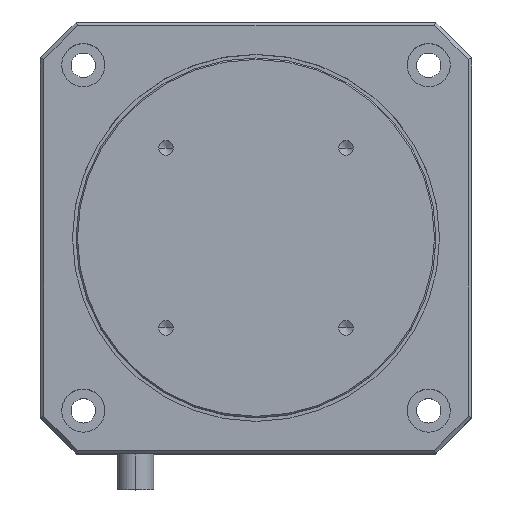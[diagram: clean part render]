
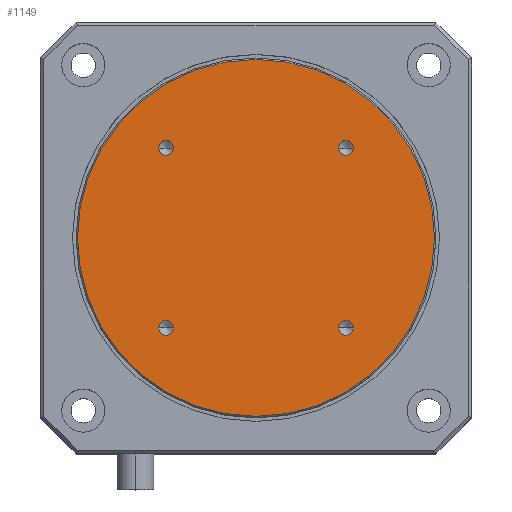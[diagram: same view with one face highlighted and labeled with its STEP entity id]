
A CAD part, top view. The second image highlights one B-rep face of the part: STEP entity #1149.
In plain terms, the highlighted planar face has unit normal (0, 0, 1).
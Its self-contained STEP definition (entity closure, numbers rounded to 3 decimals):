
#48 = CARTESIAN_POINT ( 'NONE',  ( -27.244, 0.002, 77. ) ) ;
#51 = ORIENTED_EDGE ( 'NONE', *, *, #1732, .F. ) ;
#68 = AXIS2_PLACEMENT_3D ( 'NONE', #2063, #99, #267 ) ;
#71 = DIRECTION ( 'NONE',  ( 1., 0., 0. ) ) ;
#72 = CARTESIAN_POINT ( 'NONE',  ( -1.219, 0.002, 77. ) ) ;
#86 = EDGE_LOOP ( 'NONE', ( #1325, #1027 ) ) ;
#99 = DIRECTION ( 'NONE',  ( 0., 0., 1. ) ) ;
#127 = VERTEX_POINT ( 'NONE', #918 ) ;
#146 = DIRECTION ( 'NONE',  ( 1., 0., 0. ) ) ;
#155 = CIRCLE ( 'NONE', #1644, 24.8 ) ;
#181 = DIRECTION ( 'NONE',  ( 0., 0., 1. ) ) ;
#184 = ORIENTED_EDGE ( 'NONE', *, *, #1378, .T. ) ;
#215 = CARTESIAN_POINT ( 'NONE',  ( -26.219, 0.002, 77. ) ) ;
#267 = DIRECTION ( 'NONE',  ( 1., 0., 0. ) ) ;
#304 = CIRCLE ( 'NONE', #1973, 1.025 ) ;
#375 = DIRECTION ( 'NONE',  ( 1., 0., 0. ) ) ;
#393 = DIRECTION ( 'NONE',  ( 1., 0., 0. ) ) ;
#406 = FACE_BOUND ( 'NONE', #1596, .T. ) ;
#443 = EDGE_CURVE ( 'NONE', #1855, #127, #1042, .T. ) ;
#487 = AXIS2_PLACEMENT_3D ( 'NONE', #2060, #1893, #393 ) ;
#532 = CIRCLE ( 'NONE', #2005, 1.025 ) ;
#551 = DIRECTION ( 'NONE',  ( 0., 0., 1. ) ) ;
#568 = CIRCLE ( 'NONE', #1867, 1.025 ) ;
#589 = EDGE_CURVE ( 'NONE', #127, #1855, #1551, .T. ) ;
#622 = CARTESIAN_POINT ( 'NONE',  ( -28.269, -24.998, 77. ) ) ;
#623 = EDGE_LOOP ( 'NONE', ( #184, #1916 ) ) ;
#632 = ORIENTED_EDGE ( 'NONE', *, *, #1549, .F. ) ;
#667 = VERTEX_POINT ( 'NONE', #1586 ) ;
#675 = EDGE_CURVE ( 'NONE', #1880, #667, #1598, .T. ) ;
#695 = CARTESIAN_POINT ( 'NONE',  ( -2.244, -24.998, 77. ) ) ;
#708 = CARTESIAN_POINT ( 'NONE',  ( -27.244, -24.998, 77. ) ) ;
#709 = CARTESIAN_POINT ( 'NONE',  ( -14.744, -12.498, 77. ) ) ;
#723 = CARTESIAN_POINT ( 'NONE',  ( -28.269, 0.002, 77. ) ) ;
#741 = VERTEX_POINT ( 'NONE', #1272 ) ;
#753 = AXIS2_PLACEMENT_3D ( 'NONE', #708, #1192, #71 ) ;
#755 = CARTESIAN_POINT ( 'NONE',  ( -2.244, 0.002, 77. ) ) ;
#758 = FACE_BOUND ( 'NONE', #964, .T. ) ;
#849 = CARTESIAN_POINT ( 'NONE',  ( -1.219, -24.998, 77. ) ) ;
#853 = DIRECTION ( 'NONE',  ( 0., 0., 1. ) ) ;
#888 = ORIENTED_EDGE ( 'NONE', *, *, #1434, .F. ) ;
#918 = CARTESIAN_POINT ( 'NONE',  ( -3.269, -24.998, 77. ) ) ;
#939 = EDGE_CURVE ( 'NONE', #1557, #1208, #963, .T. ) ;
#958 = FACE_OUTER_BOUND ( 'NONE', #623, .T. ) ;
#963 = CIRCLE ( 'NONE', #1048, 24.8 ) ;
#964 = EDGE_LOOP ( 'NONE', ( #888, #632 ) ) ;
#1019 = DIRECTION ( 'NONE',  ( 0., 0., 1. ) ) ;
#1025 = CARTESIAN_POINT ( 'NONE',  ( -39.544, -12.498, 77. ) ) ;
#1027 = ORIENTED_EDGE ( 'NONE', *, *, #2095, .F. ) ;
#1042 = CIRCLE ( 'NONE', #1142, 1.025 ) ;
#1048 = AXIS2_PLACEMENT_3D ( 'NONE', #1960, #1248, #146 ) ;
#1059 = FACE_BOUND ( 'NONE', #86, .T. ) ;
#1142 = AXIS2_PLACEMENT_3D ( 'NONE', #695, #853, #1355 ) ;
#1144 = CARTESIAN_POINT ( 'NONE',  ( -27.244, -24.998, 77. ) ) ;
#1149 = ADVANCED_FACE ( 'NONE', ( #958, #1059, #758, #1258, #406 ), #1356, .T. ) ;
#1157 = DIRECTION ( 'NONE',  ( 0., 0., 1. ) ) ;
#1165 = EDGE_CURVE ( 'NONE', #741, #1633, #1951, .T. ) ;
#1173 = VERTEX_POINT ( 'NONE', #215 ) ;
#1181 = CARTESIAN_POINT ( 'NONE',  ( -14.744, -12.498, 77. ) ) ;
#1192 = DIRECTION ( 'NONE',  ( 0., 0., 1. ) ) ;
#1207 = CIRCLE ( 'NONE', #1735, 1.025 ) ;
#1208 = VERTEX_POINT ( 'NONE', #1025 ) ;
#1223 = DIRECTION ( 'NONE',  ( 1., 0., 0. ) ) ;
#1228 = EDGE_LOOP ( 'NONE', ( #2107, #2090 ) ) ;
#1248 = DIRECTION ( 'NONE',  ( 0., 0., 1. ) ) ;
#1249 = CARTESIAN_POINT ( 'NONE',  ( 10.056, -12.498, 77. ) ) ;
#1252 = ORIENTED_EDGE ( 'NONE', *, *, #1165, .F. ) ;
#1258 = FACE_BOUND ( 'NONE', #1228, .T. ) ;
#1272 = CARTESIAN_POINT ( 'NONE',  ( -26.219, -24.998, 77. ) ) ;
#1310 = DIRECTION ( 'NONE',  ( 1., 0., 0. ) ) ;
#1325 = ORIENTED_EDGE ( 'NONE', *, *, #675, .F. ) ;
#1355 = DIRECTION ( 'NONE',  ( 1., 0., 0. ) ) ;
#1356 = PLANE ( 'NONE',  #1505 ) ;
#1378 = EDGE_CURVE ( 'NONE', #1208, #1557, #155, .T. ) ;
#1420 = CARTESIAN_POINT ( 'NONE',  ( -27.244, 0.002, 77. ) ) ;
#1434 = EDGE_CURVE ( 'NONE', #1173, #1472, #1207, .T. ) ;
#1472 = VERTEX_POINT ( 'NONE', #723 ) ;
#1505 = AXIS2_PLACEMENT_3D ( 'NONE', #1181, #1019, #1545 ) ;
#1545 = DIRECTION ( 'NONE',  ( 1., 0., 0. ) ) ;
#1549 = EDGE_CURVE ( 'NONE', #1472, #1173, #304, .T. ) ;
#1551 = CIRCLE ( 'NONE', #487, 1.025 ) ;
#1557 = VERTEX_POINT ( 'NONE', #1249 ) ;
#1586 = CARTESIAN_POINT ( 'NONE',  ( -3.269, 0.002, 77. ) ) ;
#1596 = EDGE_LOOP ( 'NONE', ( #1252, #51 ) ) ;
#1598 = CIRCLE ( 'NONE', #68, 1.025 ) ;
#1633 = VERTEX_POINT ( 'NONE', #622 ) ;
#1644 = AXIS2_PLACEMENT_3D ( 'NONE', #709, #1157, #2026 ) ;
#1732 = EDGE_CURVE ( 'NONE', #1633, #741, #532, .T. ) ;
#1735 = AXIS2_PLACEMENT_3D ( 'NONE', #48, #551, #375 ) ;
#1758 = DIRECTION ( 'NONE',  ( 0., 0., 1. ) ) ;
#1855 = VERTEX_POINT ( 'NONE', #849 ) ;
#1867 = AXIS2_PLACEMENT_3D ( 'NONE', #755, #1758, #2104 ) ;
#1880 = VERTEX_POINT ( 'NONE', #72 ) ;
#1893 = DIRECTION ( 'NONE',  ( 0., 0., 1. ) ) ;
#1916 = ORIENTED_EDGE ( 'NONE', *, *, #939, .T. ) ;
#1951 = CIRCLE ( 'NONE', #753, 1.025 ) ;
#1960 = CARTESIAN_POINT ( 'NONE',  ( -14.744, -12.498, 77. ) ) ;
#1973 = AXIS2_PLACEMENT_3D ( 'NONE', #1420, #2099, #1223 ) ;
#2005 = AXIS2_PLACEMENT_3D ( 'NONE', #1144, #181, #1310 ) ;
#2026 = DIRECTION ( 'NONE',  ( 1., 0., 0. ) ) ;
#2060 = CARTESIAN_POINT ( 'NONE',  ( -2.244, -24.998, 77. ) ) ;
#2063 = CARTESIAN_POINT ( 'NONE',  ( -2.244, 0.002, 77. ) ) ;
#2090 = ORIENTED_EDGE ( 'NONE', *, *, #589, .F. ) ;
#2095 = EDGE_CURVE ( 'NONE', #667, #1880, #568, .T. ) ;
#2099 = DIRECTION ( 'NONE',  ( 0., 0., 1. ) ) ;
#2104 = DIRECTION ( 'NONE',  ( 1., 0., 0. ) ) ;
#2107 = ORIENTED_EDGE ( 'NONE', *, *, #443, .F. ) ;
